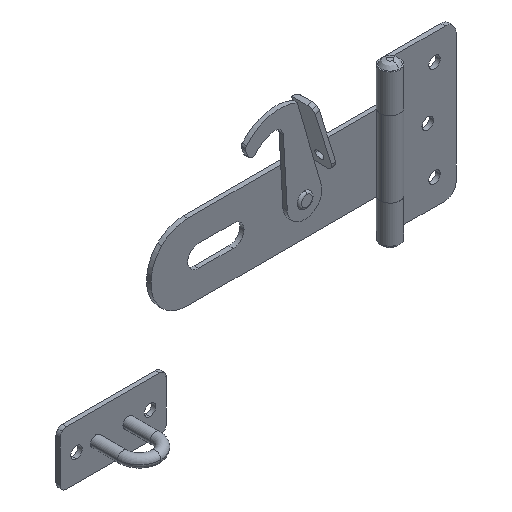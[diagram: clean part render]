
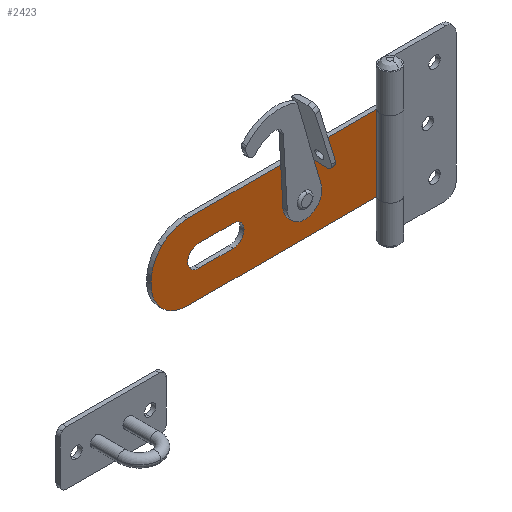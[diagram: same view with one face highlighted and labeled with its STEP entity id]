
A CAD part, isometric view. The second image highlights one B-rep face of the part: STEP entity #2423.
In plain terms, the highlighted planar face has unit normal (0, -1, 0) as drawn and (0, 0, 1) by its records, which use the part's own axes.
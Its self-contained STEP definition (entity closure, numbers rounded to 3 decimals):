
#1722=CARTESIAN_POINT('',(47.,0.,-1.0));
#1723=VERTEX_POINT('',#1722);
#1732=CARTESIAN_POINT('',(42.,5.0,-1.0));
#1733=VERTEX_POINT('',#1732);
#1734=CARTESIAN_POINT('',(42.,0.0,-1.0));
#1735=DIRECTION('',(0.0,0.0,-1.0));
#1736=DIRECTION('',(1.0,0.0,0.0));
#1737=AXIS2_PLACEMENT_3D('',#1734,#1735,#1736);
#1738=CIRCLE('',#1737,5.0);
#1739=EDGE_CURVE('',#1733,#1723,#1738,.T.);
#1766=CARTESIAN_POINT('',(21.0,0.,-1.0));
#1767=VERTEX_POINT('',#1766);
#1783=CARTESIAN_POINT('',(26.0,5.,-1.0));
#1784=VERTEX_POINT('',#1783);
#1791=CARTESIAN_POINT('',(26.0,0.,-1.0));
#1792=DIRECTION('',(0.0,0.0,-1.0));
#1793=DIRECTION('',(1.0,0.0,0.0));
#1794=AXIS2_PLACEMENT_3D('',#1791,#1792,#1793);
#1795=CIRCLE('',#1794,5.0);
#1796=EDGE_CURVE('',#1767,#1784,#1795,.T.);
#1816=CARTESIAN_POINT('',(-44.0,-17.5,-1.0));
#1817=VERTEX_POINT('',#1816);
#1825=CARTESIAN_POINT('',(-44.0,17.5,-1.0));
#1826=VERTEX_POINT('',#1825);
#1827=CARTESIAN_POINT('',(-44.0,17.5,-1.0));
#1828=DIRECTION('',(0.0,-1.0,0.0));
#1829=VECTOR('',#1828,35.0);
#1830=LINE('',#1827,#1829);
#1831=EDGE_CURVE('',#1826,#1817,#1830,.T.);
#1881=CARTESIAN_POINT('',(59.021,12.521,-1.0));
#1882=VERTEX_POINT('',#1881);
#1891=CARTESIAN_POINT('',(64.0,0.5,-1.0));
#1892=VERTEX_POINT('',#1891);
#1893=CARTESIAN_POINT('',(47.0,0.5,-1.0));
#1894=DIRECTION('',(0.0,0.0,-1.0));
#1895=DIRECTION('',(0.707,0.707,0.0));
#1896=AXIS2_PLACEMENT_3D('',#1893,#1894,#1895);
#1897=CIRCLE('',#1896,17.0);
#1898=EDGE_CURVE('',#1882,#1892,#1897,.T.);
#1923=CARTESIAN_POINT('',(59.021,-12.521,-1.0));
#1924=VERTEX_POINT('',#1923);
#1933=CARTESIAN_POINT('',(47.0,-17.5,-1.0));
#1934=VERTEX_POINT('',#1933);
#1935=CARTESIAN_POINT('',(47.0,-0.5,-1.0));
#1936=DIRECTION('',(0.0,0.0,-1.0));
#1937=DIRECTION('',(0.707,-0.707,0.0));
#1938=AXIS2_PLACEMENT_3D('',#1935,#1936,#1937);
#1939=CIRCLE('',#1938,17.0);
#1940=EDGE_CURVE('',#1924,#1934,#1939,.T.);
#1965=CARTESIAN_POINT('',(-2.5,0.,-1.0));
#1966=VERTEX_POINT('',#1965);
#1975=CARTESIAN_POINT('',(-7.5,0.,-1.0));
#1976=VERTEX_POINT('',#1975);
#1977=CARTESIAN_POINT('',(-5.0,0.0,-1.0));
#1978=DIRECTION('',(0.0,0.0,-1.0));
#1979=DIRECTION('',(1.0,0.0,0.0));
#1980=AXIS2_PLACEMENT_3D('',#1977,#1978,#1979);
#1981=CIRCLE('',#1980,2.5);
#1982=EDGE_CURVE('',#1976,#1966,#1981,.T.);
#2016=CARTESIAN_POINT('',(-5.0,0.0,-1.0));
#2017=DIRECTION('',(0.0,0.0,-1.0));
#2018=DIRECTION('',(1.0,0.0,0.0));
#2019=AXIS2_PLACEMENT_3D('',#2016,#2017,#2018);
#2020=CIRCLE('',#2019,2.5);
#2021=EDGE_CURVE('',#1966,#1976,#2020,.T.);
#2041=CARTESIAN_POINT('',(64.0,-0.5,-1.0));
#2042=VERTEX_POINT('',#2041);
#2049=CARTESIAN_POINT('',(47.0,-0.5,-1.0));
#2050=DIRECTION('',(0.0,0.0,-1.0));
#2051=DIRECTION('',(0.707,-0.707,0.0));
#2052=AXIS2_PLACEMENT_3D('',#2049,#2050,#2051);
#2053=CIRCLE('',#2052,17.0);
#2054=EDGE_CURVE('',#2042,#1924,#2053,.T.);
#2072=CARTESIAN_POINT('',(64.0,0.5,-1.0));
#2073=DIRECTION('',(0.0,-1.0,0.0));
#2074=VECTOR('',#2073,1.0);
#2075=LINE('',#2072,#2074);
#2076=EDGE_CURVE('',#1892,#2042,#2075,.T.);
#2160=CARTESIAN_POINT('',(47.0,17.5,-1.0));
#2161=VERTEX_POINT('',#2160);
#2168=CARTESIAN_POINT('',(47.0,0.5,-1.0));
#2169=DIRECTION('',(0.0,0.0,-1.0));
#2170=DIRECTION('',(0.707,0.707,0.0));
#2171=AXIS2_PLACEMENT_3D('',#2168,#2169,#2170);
#2172=CIRCLE('',#2171,17.0);
#2173=EDGE_CURVE('',#2161,#1882,#2172,.T.);
#2213=CARTESIAN_POINT('',(-44.0,17.5,-1.0));
#2214=DIRECTION('',(1.0,0.0,0.0));
#2215=VECTOR('',#2214,91.0);
#2216=LINE('',#2213,#2215);
#2217=EDGE_CURVE('',#1826,#2161,#2216,.T.);
#2228=CARTESIAN_POINT('',(47.0,-17.5,-1.0));
#2229=DIRECTION('',(-1.0,0.0,0.0));
#2230=VECTOR('',#2229,91.0);
#2231=LINE('',#2228,#2230);
#2232=EDGE_CURVE('',#1934,#1817,#2231,.T.);
#2306=CARTESIAN_POINT('',(26.0,-5.,-1.0));
#2307=VERTEX_POINT('',#2306);
#2314=CARTESIAN_POINT('',(42.,-5.0,-1.0));
#2315=VERTEX_POINT('',#2314);
#2316=CARTESIAN_POINT('',(42.,-5.0,-1.0));
#2317=DIRECTION('',(-1.0,0.0,0.0));
#2318=VECTOR('',#2317,16.);
#2319=LINE('',#2316,#2318);
#2320=EDGE_CURVE('',#2315,#2307,#2319,.T.);
#2337=CARTESIAN_POINT('',(26.0,0.,-1.0));
#2338=DIRECTION('',(0.0,0.0,-1.0));
#2339=DIRECTION('',(1.0,0.0,0.0));
#2340=AXIS2_PLACEMENT_3D('',#2337,#2338,#2339);
#2341=CIRCLE('',#2340,5.0);
#2342=EDGE_CURVE('',#2307,#1767,#2341,.T.);
#2356=CARTESIAN_POINT('',(26.0,5.,-1.0));
#2357=DIRECTION('',(1.0,0.0,0.0));
#2358=VECTOR('',#2357,16.);
#2359=LINE('',#2356,#2358);
#2360=EDGE_CURVE('',#1784,#1733,#2359,.T.);
#2374=CARTESIAN_POINT('',(42.,0.0,-1.0));
#2375=DIRECTION('',(0.0,0.0,-1.0));
#2376=DIRECTION('',(1.0,0.0,0.0));
#2377=AXIS2_PLACEMENT_3D('',#2374,#2375,#2376);
#2378=CIRCLE('',#2377,5.0);
#2379=EDGE_CURVE('',#1723,#2315,#2378,.T.);
#2396=CARTESIAN_POINT('',(8.652,0.,-1.0));
#2397=DIRECTION('',(0.0,0.0,1.0));
#2398=DIRECTION('',(1.0,0.0,0.0));
#2399=AXIS2_PLACEMENT_3D('',#2396,#2397,#2398);
#2400=PLANE('',#2399);
#2401=ORIENTED_EDGE('',*,*,#2054,.F.);
#2402=ORIENTED_EDGE('',*,*,#2076,.F.);
#2403=ORIENTED_EDGE('',*,*,#1898,.F.);
#2404=ORIENTED_EDGE('',*,*,#2173,.F.);
#2405=ORIENTED_EDGE('',*,*,#2217,.F.);
#2406=ORIENTED_EDGE('',*,*,#1831,.T.);
#2407=ORIENTED_EDGE('',*,*,#2232,.F.);
#2408=ORIENTED_EDGE('',*,*,#1940,.F.);
#2409=EDGE_LOOP('',(#2401,#2402,#2403,#2404,#2405,#2406,#2407,#2408));
#2410=FACE_OUTER_BOUND('',#2409,.T.);
#2411=ORIENTED_EDGE('',*,*,#1982,.T.);
#2412=ORIENTED_EDGE('',*,*,#2021,.T.);
#2413=EDGE_LOOP('',(#2411,#2412));
#2414=FACE_BOUND('',#2413,.T.);
#2415=ORIENTED_EDGE('',*,*,#1739,.T.);
#2416=ORIENTED_EDGE('',*,*,#2379,.T.);
#2417=ORIENTED_EDGE('',*,*,#2320,.T.);
#2418=ORIENTED_EDGE('',*,*,#2342,.T.);
#2419=ORIENTED_EDGE('',*,*,#1796,.T.);
#2420=ORIENTED_EDGE('',*,*,#2360,.T.);
#2421=EDGE_LOOP('',(#2415,#2416,#2417,#2418,#2419,#2420));
#2422=FACE_BOUND('',#2421,.T.);
#2423=ADVANCED_FACE('',(#2410,#2414,#2422),#2400,.T.);
